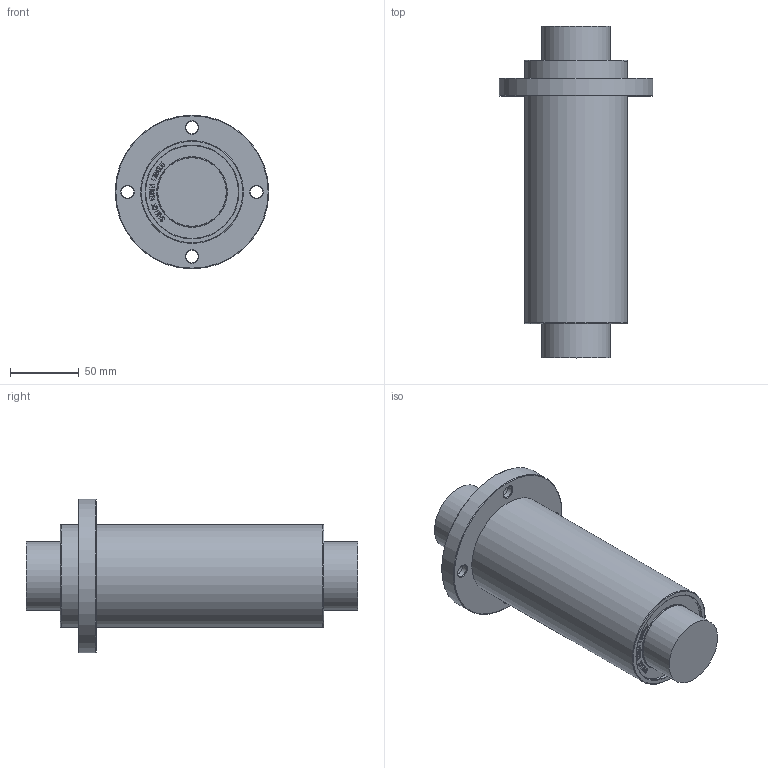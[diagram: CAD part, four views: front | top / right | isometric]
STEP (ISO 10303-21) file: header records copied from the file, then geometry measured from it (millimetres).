
FILE_DESCRIPTION(/* description */ (''),/* implementation_level */ '2;1');
FILE_NAME(/* name */ 'W:\(01) 2024년 홈페이지 CAD파일 최신화\LMEFP_L\IPT\LMEF50LUU.stp',/* time_stamp */ '2025-01-25T11:49:46+09:00',/* author */ ('서우현'),/* organization */ (''),/* preprocessor_version */ 'ST-DEVELOPER v17.2',/* originating_system */ 'Autodesk Inventor 2019',/* authorisation */ '');
FILE_SCHEMA (('AUTOMOTIVE_DESIGN { 1 0 10303 214 3 1 1 }'));
Length unit declared in the file: millimetre
Products named in the file (1): LM5
Bounding box: 112 x 242 x 112 mm (x, y, z)
Volume: 1003034.9 mm3; surface area: 77031.7 mm2
Topology: 1 solids, 1 shells, 859 faces, 2421 edges, 1620 vertices
Faces by surface type: bspline 600, plane 228, cylinder 15, cone 14, torus 2
Full cylindrical faces by diameter (mm): 9 x4, 14 x4, 50 x2, 67.7 x2, 75 x2, 112 x1
Entity records: 29665 total; most frequent: CARTESIAN_POINT 11037, ORIENTED_EDGE 4842, EDGE_CURVE 2421, DIRECTION 1823, VERTEX_POINT 1620, B_SPLINE_CURVE_WITH_KNOTS 1200, LINE 1139, VECTOR 1139
